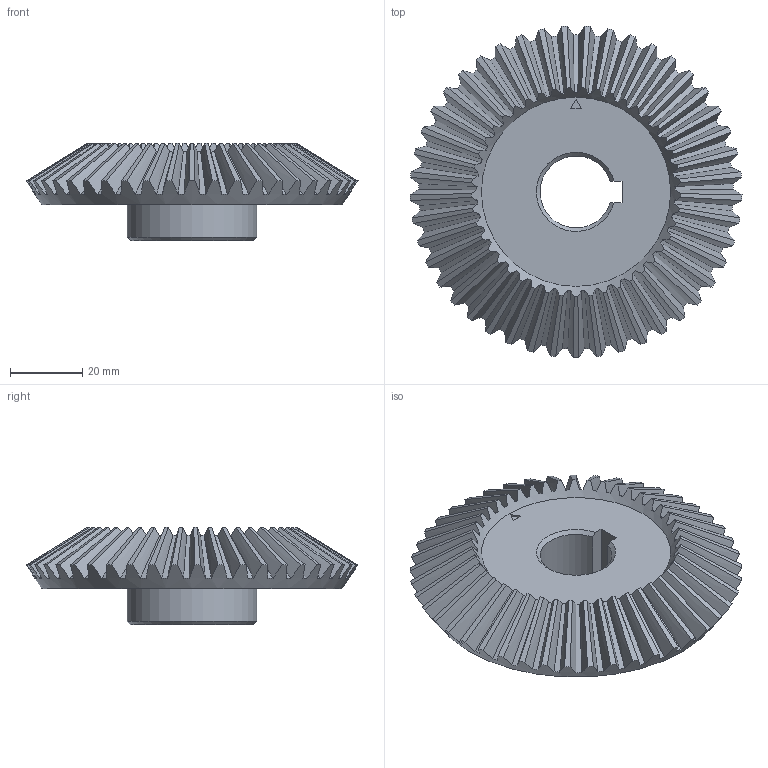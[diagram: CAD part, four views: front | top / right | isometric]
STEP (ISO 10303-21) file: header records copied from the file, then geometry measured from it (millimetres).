
FILE_DESCRIPTION(/* description */ (''),/* implementation_level */ '2;1');
FILE_NAME(/* name */ '',/* time_stamp */ '2026-04-23T11:32:56+09:00',/* author */ ('jhkim'),/* organization */ (''),/* preprocessor_version */ 'ST-DEVELOPER v20.1',/* originating_system */ 'Autodesk Inventor 2027',/* authorisation */ '');
FILE_SCHEMA (('AUTOMOTIVE_DESIGN { 1 0 10303 214 3 1 1 }'));
Length unit declared in the file: millimetre
Products named in the file (1): 베벨 기어(종동)
Bounding box: 92.2 x 92.16 x 27.14 mm (x, y, z)
Volume: 71823 mm3; surface area: 20982.7 mm2
Topology: 1 solids, 1 shells, 201 faces, 588 edges, 392 vertices
Faces by surface type: cone 95, bspline 90, plane 14, cylinder 2
Full cylindrical faces by diameter (mm): 36 x1
Entity records: 8557 total; most frequent: CARTESIAN_POINT 3980, ORIENTED_EDGE 1176, DIRECTION 640, EDGE_CURVE 588, VERTEX_POINT 392, B_SPLINE_CURVE_WITH_KNOTS 360, AXIS2_PLACEMENT_3D 304, EDGE_LOOP 206
